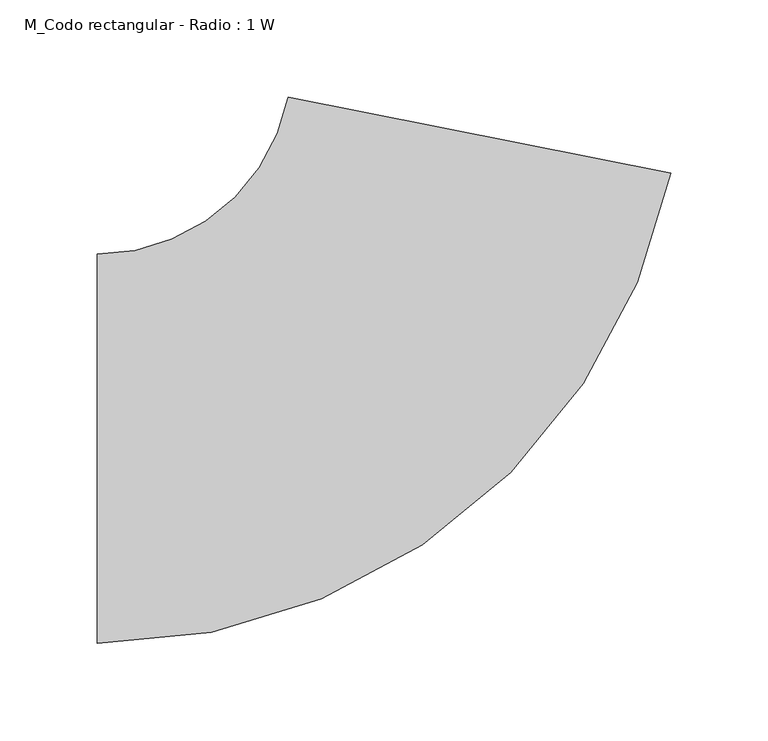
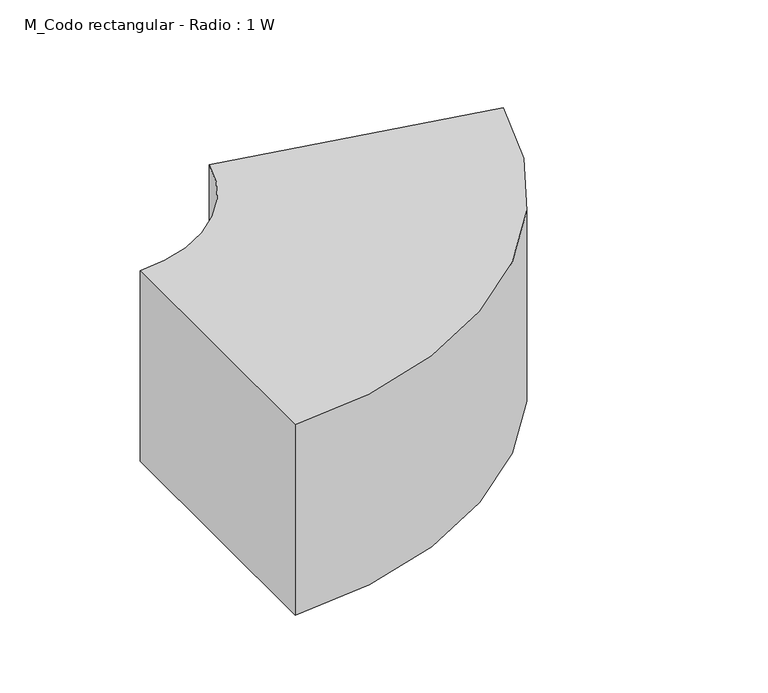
"""IFC4 building model written with IfcOpenShell, lengths in millimetres: duct fitting geometry, M_Codo rectangular - Radio : 1 W."""

from ifc_helpers import new_model, si_unit, point, frame, frame_2d, origin, place, context, project, spatial, polyline, circle_curve, trimmed, segment, composite_curve, outline, extrude, source, transform, mapped, element, save


def m_codo_rectangular_radio_1_w_7be62543(model_context):
    return source(origin(), model_context, "Body", "SweptSolid", [
        extrude(outline(composite_curve([segment(trimmed(circle_curve(frame_2d((-164.2616903, 200.0)), 300.0), [point((130.0178387, 141.6942643))], [point((-164.2616903, -100.0))], False, "CARTESIAN"), True, "CONTINUOUS"), segment(polyline([(-164.2616903, -100.0), (-164.2616903, 100.0)]), True, "CONTINUOUS"), segment(trimmed(circle_curve(frame_2d((-164.2616903, 200.0)), 100.0), [point((-164.2616903, 100.0))], [point((-66.168514, 180.5647548))], True, "CARTESIAN"), True, "CONTINUOUS"), segment(polyline([(-66.168514, 180.5647548), (130.0178387, 141.6942643)]), True, "CONTINUOUS")], self_intersect=False)), frame((0.0, 0.0, -75.0), z_axis=(0.0, 0.0, 1.0), x_axis=(1.0, 0.0, 0.0)), (0.0, 0.0, 1.0), 150.0),
    ])


if __name__ == "__main__":
    model = new_model("IFC4")
    model_context = context("Model", 3, world=origin())
    ifc_project = project(units=[si_unit("LENGTHUNIT", "METRE", prefix="MILLI")], contexts=[model_context])
    site = spatial("IfcSite", under=ifc_project)
    building = spatial("IfcBuilding", under=site)
    placement = place(None, origin())
    m_codo_rectangular_radio_1_w_shape = m_codo_rectangular_radio_1_w_7be62543(model_context)
    element("IfcDuctFitting", 1, ObjectType="M_Codo rectangular - Radio : 1 W", at=placement, inside=building, context=model_context, shape_type="MappedRepresentation", body=[
        mapped(m_codo_rectangular_radio_1_w_shape, transform((0.0, 0.0, 0.0), x_axis=(1.0, 0.0, 0.0), y_axis=(0.0, 1.0, 0.0), z_axis=(0.0, 0.0, 1.0))),
    ])
    save(model, "model.ifc")
